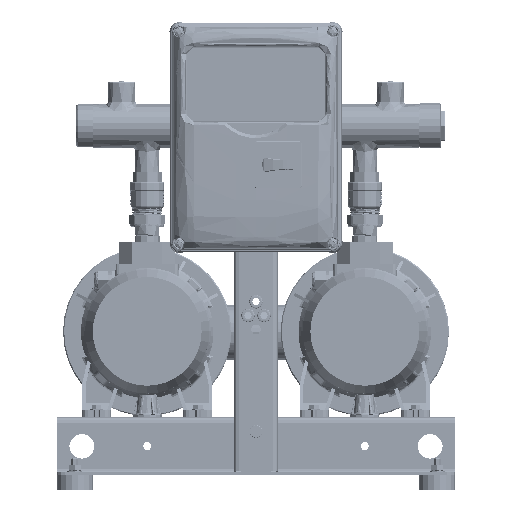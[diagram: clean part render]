
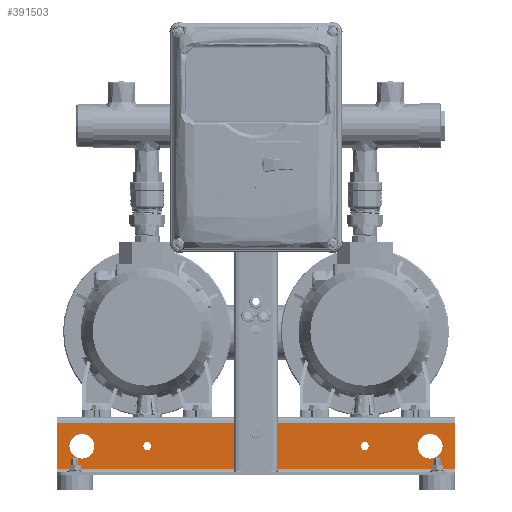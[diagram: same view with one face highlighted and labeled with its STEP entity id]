
A CAD part, top view. The second image highlights one B-rep face of the part: STEP entity #391503.
In plain terms, the highlighted planar face has unit normal (0, 0, 1) as drawn and (0, 0, -1) by its records, which use the part's own axes.
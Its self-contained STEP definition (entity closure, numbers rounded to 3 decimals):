
#385234=DIRECTION('',(1.,0.,0.));
#385235=VECTOR('',#385234,550.);
#385236=CARTESIAN_POINT('',(-275.,-8.,-150.));
#385237=LINE('',#385236,#385235);
#387464=DIRECTION('',(0.,1.,0.));
#387465=VECTOR('',#387464,64.);
#387466=CARTESIAN_POINT('',(-275.,-72.,-150.));
#387467=LINE('',#387466,#387465);
#387485=DIRECTION('',(1.,0.,0.));
#387486=VECTOR('',#387485,550.);
#387487=CARTESIAN_POINT('',(-275.,-72.,-150.));
#387488=LINE('',#387487,#387486);
#387515=DIRECTION('',(0.,1.,0.));
#387516=VECTOR('',#387515,26.);
#387517=CARTESIAN_POINT('',(-26.7,-40.,-150.));
#387518=LINE('',#387517,#387516);
#387522=DIRECTION('',(1.,0.,0.));
#387523=VECTOR('',#387522,3.6);
#387524=CARTESIAN_POINT('',(-30.3,-40.,-150.));
#387525=LINE('',#387524,#387523);
#387529=DIRECTION('',(0.,-1.,0.));
#387530=VECTOR('',#387529,26.);
#387531=CARTESIAN_POINT('',(-30.3,-14.,-150.));
#387532=LINE('',#387531,#387530);
#387536=DIRECTION('',(-1.,0.,0.));
#387537=VECTOR('',#387536,3.6);
#387538=CARTESIAN_POINT('',(-26.7,-14.,-150.));
#387539=LINE('',#387538,#387537);
#387543=DIRECTION('',(0.,1.,0.));
#387544=VECTOR('',#387543,26.);
#387545=CARTESIAN_POINT('',(30.3,-40.,-150.));
#387546=LINE('',#387545,#387544);
#387550=DIRECTION('',(1.,0.,0.));
#387551=VECTOR('',#387550,3.6);
#387552=CARTESIAN_POINT('',(26.7,-40.,-150.));
#387553=LINE('',#387552,#387551);
#387557=DIRECTION('',(0.,-1.,0.));
#387558=VECTOR('',#387557,26.);
#387559=CARTESIAN_POINT('',(26.7,-14.,-150.));
#387560=LINE('',#387559,#387558);
#387564=DIRECTION('',(-1.,0.,0.));
#387565=VECTOR('',#387564,3.6);
#387566=CARTESIAN_POINT('',(30.3,-14.,-150.));
#387567=LINE('',#387566,#387565);
#387571=CARTESIAN_POINT('',(0.,-20.,-150.));
#387572=DIRECTION('',(0.,0.,-1.));
#387573=DIRECTION('',(1.,0.,0.));
#387574=AXIS2_PLACEMENT_3D('',#387571,#387572,#387573);
#387579=CARTESIAN_POINT('',(0.,-20.,-150.));
#387580=DIRECTION('',(0.,0.,-1.));
#387581=DIRECTION('',(-1.,0.,0.));
#387582=AXIS2_PLACEMENT_3D('',#387579,#387580,#387581);
#387587=CARTESIAN_POINT('',(-240.,-40.,-150.));
#387588=DIRECTION('',(0.,0.,1.));
#387589=DIRECTION('',(-1.,0.,0.));
#387590=AXIS2_PLACEMENT_3D('',#387587,#387588,#387589);
#387595=CARTESIAN_POINT('',(-240.,-40.,-150.));
#387596=DIRECTION('',(0.,0.,1.));
#387597=DIRECTION('',(1.,0.,0.));
#387598=AXIS2_PLACEMENT_3D('',#387595,#387596,#387597);
#387603=CARTESIAN_POINT('',(240.,-40.,-150.));
#387604=DIRECTION('',(0.,0.,1.));
#387605=DIRECTION('',(-1.,0.,0.));
#387606=AXIS2_PLACEMENT_3D('',#387603,#387604,#387605);
#387611=CARTESIAN_POINT('',(240.,-40.,-150.));
#387612=DIRECTION('',(0.,0.,1.));
#387613=DIRECTION('',(1.,0.,0.));
#387614=AXIS2_PLACEMENT_3D('',#387611,#387612,#387613);
#387619=CARTESIAN_POINT('',(-150.,-40.,-150.));
#387620=DIRECTION('',(0.,0.,1.));
#387621=DIRECTION('',(1.,0.,0.));
#387622=AXIS2_PLACEMENT_3D('',#387619,#387620,#387621);
#387627=CARTESIAN_POINT('',(-150.,-40.,-150.));
#387628=DIRECTION('',(0.,0.,1.));
#387629=DIRECTION('',(-1.,0.,0.));
#387630=AXIS2_PLACEMENT_3D('',#387627,#387628,#387629);
#387635=CARTESIAN_POINT('',(150.,-40.,-150.));
#387636=DIRECTION('',(0.,0.,-1.));
#387637=DIRECTION('',(-1.,0.,0.));
#387638=AXIS2_PLACEMENT_3D('',#387635,#387636,#387637);
#387643=CARTESIAN_POINT('',(150.,-40.,-150.));
#387644=DIRECTION('',(0.,0.,-1.));
#387645=DIRECTION('',(1.,0.,0.));
#387646=AXIS2_PLACEMENT_3D('',#387643,#387644,#387645);
#387665=DIRECTION('',(0.,1.,0.));
#387666=VECTOR('',#387665,64.);
#387667=CARTESIAN_POINT('',(275.,-72.,-150.));
#387668=LINE('',#387667,#387666);
#389230=CARTESIAN_POINT('',(-275.,-72.,-150.));
#389231=CARTESIAN_POINT('',(-275.,-8.,-150.));
#389232=VERTEX_POINT('',#389230);
#389233=VERTEX_POINT('',#389231);
#389234=CARTESIAN_POINT('',(275.,-72.,-150.));
#389235=CARTESIAN_POINT('',(275.,-8.,-150.));
#389236=VERTEX_POINT('',#389234);
#389237=VERTEX_POINT('',#389235);
#389590=CARTESIAN_POINT('',(-26.7,-40.,-150.));
#389591=CARTESIAN_POINT('',(-26.7,-14.,-150.));
#389592=VERTEX_POINT('',#389590);
#389593=VERTEX_POINT('',#389591);
#389594=CARTESIAN_POINT('',(-30.3,-14.,-150.));
#389595=VERTEX_POINT('',#389594);
#389596=CARTESIAN_POINT('',(-30.3,-40.,-150.));
#389597=VERTEX_POINT('',#389596);
#389598=CARTESIAN_POINT('',(30.3,-40.,-150.));
#389599=CARTESIAN_POINT('',(30.3,-14.,-150.));
#389600=VERTEX_POINT('',#389598);
#389601=VERTEX_POINT('',#389599);
#389602=CARTESIAN_POINT('',(26.7,-14.,-150.));
#389603=VERTEX_POINT('',#389602);
#389604=CARTESIAN_POINT('',(26.7,-40.,-150.));
#389605=VERTEX_POINT('',#389604);
#389622=CARTESIAN_POINT('',(6.25,-20.,-150.));
#389623=CARTESIAN_POINT('',(-6.25,-20.,-150.));
#389624=VERTEX_POINT('',#389622);
#389625=VERTEX_POINT('',#389623);
#389646=CARTESIAN_POINT('',(-257.5,-40.,-150.));
#389647=CARTESIAN_POINT('',(-222.5,-40.,-150.));
#389648=VERTEX_POINT('',#389646);
#389649=VERTEX_POINT('',#389647);
#389650=CARTESIAN_POINT('',(222.5,-40.,-150.));
#389651=CARTESIAN_POINT('',(257.5,-40.,-150.));
#389652=VERTEX_POINT('',#389650);
#389653=VERTEX_POINT('',#389651);
#389746=CARTESIAN_POINT('',(-143.75,-40.,-150.));
#389747=CARTESIAN_POINT('',(-156.25,-40.,-150.));
#389748=VERTEX_POINT('',#389746);
#389749=VERTEX_POINT('',#389747);
#389758=CARTESIAN_POINT('',(143.75,-40.,-150.));
#389760=VERTEX_POINT('',#389758);
#389766=CARTESIAN_POINT('',(156.25,-40.,-150.));
#389768=VERTEX_POINT('',#389766);
#391441=CARTESIAN_POINT('',(-275.,-76.,-150.));
#391442=DIRECTION('',(0.,0.,-1.));
#391443=DIRECTION('',(0.,1.,0.));
#391444=AXIS2_PLACEMENT_3D('',#391441,#391442,#391443);
#391445=PLANE('',#391444);
#391446=ORIENTED_EDGE('',*,*,#391394,.F.);
#391447=ORIENTED_EDGE('',*,*,#391431,.T.);
#391449=ORIENTED_EDGE('',*,*,#391448,.T.);
#391450=ORIENTED_EDGE('',*,*,#390502,.F.);
#391451=EDGE_LOOP('',(#391446,#391447,#391449,#391450));
#391452=FACE_OUTER_BOUND('',#391451,.F.);
#391454=ORIENTED_EDGE('',*,*,#391453,.F.);
#391456=ORIENTED_EDGE('',*,*,#391455,.F.);
#391458=ORIENTED_EDGE('',*,*,#391457,.F.);
#391460=ORIENTED_EDGE('',*,*,#391459,.F.);
#391461=EDGE_LOOP('',(#391454,#391456,#391458,#391460));
#391462=FACE_BOUND('',#391461,.F.);
#391464=ORIENTED_EDGE('',*,*,#391463,.F.);
#391466=ORIENTED_EDGE('',*,*,#391465,.F.);
#391468=ORIENTED_EDGE('',*,*,#391467,.F.);
#391470=ORIENTED_EDGE('',*,*,#391469,.F.);
#391471=EDGE_LOOP('',(#391464,#391466,#391468,#391470));
#391472=FACE_BOUND('',#391471,.F.);
#391474=ORIENTED_EDGE('',*,*,#391473,.T.);
#391476=ORIENTED_EDGE('',*,*,#391475,.T.);
#391477=EDGE_LOOP('',(#391474,#391476));
#391478=FACE_BOUND('',#391477,.F.);
#391480=ORIENTED_EDGE('',*,*,#391479,.F.);
#391482=ORIENTED_EDGE('',*,*,#391481,.F.);
#391483=EDGE_LOOP('',(#391480,#391482));
#391484=FACE_BOUND('',#391483,.F.);
#391486=ORIENTED_EDGE('',*,*,#391485,.F.);
#391488=ORIENTED_EDGE('',*,*,#391487,.F.);
#391489=EDGE_LOOP('',(#391486,#391488));
#391490=FACE_BOUND('',#391489,.F.);
#391492=ORIENTED_EDGE('',*,*,#391491,.F.);
#391494=ORIENTED_EDGE('',*,*,#391493,.F.);
#391495=EDGE_LOOP('',(#391492,#391494));
#391496=FACE_BOUND('',#391495,.F.);
#391498=ORIENTED_EDGE('',*,*,#391497,.T.);
#391500=ORIENTED_EDGE('',*,*,#391499,.T.);
#391501=EDGE_LOOP('',(#391498,#391500));
#391502=FACE_BOUND('',#391501,.F.);
#387575=CIRCLE('',#387574,6.25);
#387583=CIRCLE('',#387582,6.25);
#387591=CIRCLE('',#387590,17.5);
#387599=CIRCLE('',#387598,17.5);
#387607=CIRCLE('',#387606,17.5);
#387615=CIRCLE('',#387614,17.5);
#387623=CIRCLE('',#387622,6.25);
#387631=CIRCLE('',#387630,6.25);
#387639=CIRCLE('',#387638,6.25);
#387647=CIRCLE('',#387646,6.25);
#390502=EDGE_CURVE('',#389233,#389237,#385237,.T.);
#391394=EDGE_CURVE('',#389232,#389233,#387467,.T.);
#391431=EDGE_CURVE('',#389232,#389236,#387488,.T.);
#391448=EDGE_CURVE('',#389236,#389237,#387668,.T.);
#391453=EDGE_CURVE('',#389592,#389593,#387518,.T.);
#391455=EDGE_CURVE('',#389597,#389592,#387525,.T.);
#391457=EDGE_CURVE('',#389595,#389597,#387532,.T.);
#391459=EDGE_CURVE('',#389593,#389595,#387539,.T.);
#391463=EDGE_CURVE('',#389600,#389601,#387546,.T.);
#391465=EDGE_CURVE('',#389605,#389600,#387553,.T.);
#391467=EDGE_CURVE('',#389603,#389605,#387560,.T.);
#391469=EDGE_CURVE('',#389601,#389603,#387567,.T.);
#391473=EDGE_CURVE('',#389624,#389625,#387575,.T.);
#391475=EDGE_CURVE('',#389625,#389624,#387583,.T.);
#391479=EDGE_CURVE('',#389648,#389649,#387591,.T.);
#391481=EDGE_CURVE('',#389649,#389648,#387599,.T.);
#391485=EDGE_CURVE('',#389652,#389653,#387607,.T.);
#391487=EDGE_CURVE('',#389653,#389652,#387615,.T.);
#391491=EDGE_CURVE('',#389748,#389749,#387623,.T.);
#391493=EDGE_CURVE('',#389749,#389748,#387631,.T.);
#391497=EDGE_CURVE('',#389760,#389768,#387639,.T.);
#391499=EDGE_CURVE('',#389768,#389760,#387647,.T.);
#391503=ADVANCED_FACE('',(#391452,#391462,#391472,#391478,#391484,#391490,
#391496,#391502),#391445,.T.);
